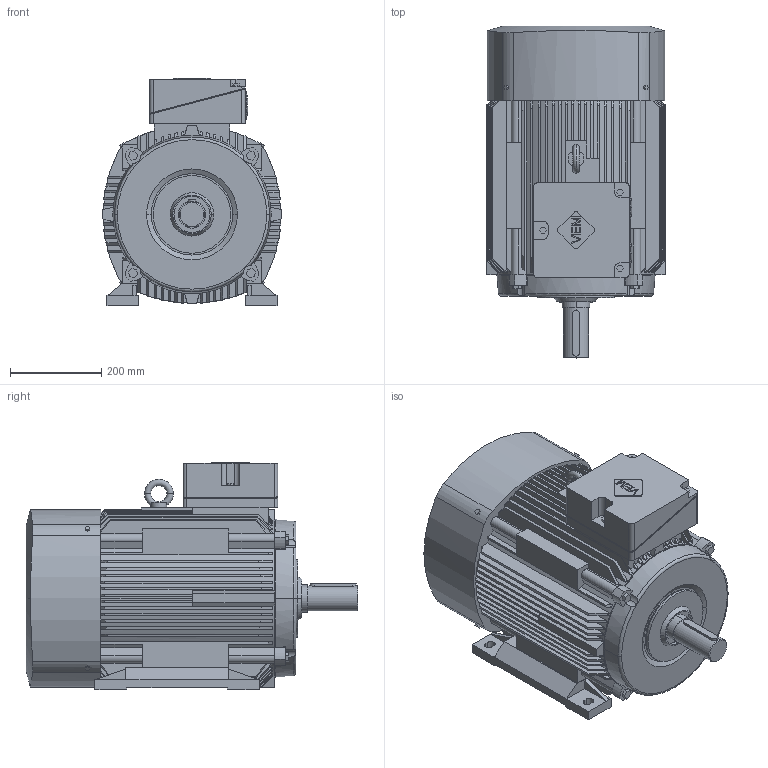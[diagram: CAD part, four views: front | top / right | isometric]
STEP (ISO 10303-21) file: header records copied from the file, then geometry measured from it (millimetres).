
FILE_DESCRIPTION(('no description'),'unknown implementation level');
FILE_NAME('tf1b75ada42dc4cbe9023bf20925c4439.stp',' ',('VEM motors GmbH'),('CADClick - KiM GmbH - www.kimweb.de'),'unknown preprocess','ACIS','unknown authorization');
FILE_SCHEMA(('automotive_design'));
Length unit declared in the file: millimetre
Products named in the file (5): 1; 2; 3; 4; 5
Bounding box: 390 x 726 x 498 mm (x, y, z)
Volume: 71397510.8 mm3; surface area: 2324191.6 mm2
Topology: 5 solids, 6 shells, 760 faces, 2136 edges, 1410 vertices
Faces by surface type: plane 444, cylinder 178, cone 124, torus 10, bspline 4
Entity records: 51970 total; most frequent: CARTESIAN_POINT 8963, STYLED_ITEM 4311, PRESENTATION_STYLE_ASSIGNMENT 4311, COLOUR_RGB 4311, ORIENTED_EDGE 4272, DIRECTION 3736, EDGE_CURVE 2136, CURVE_STYLE 2136
